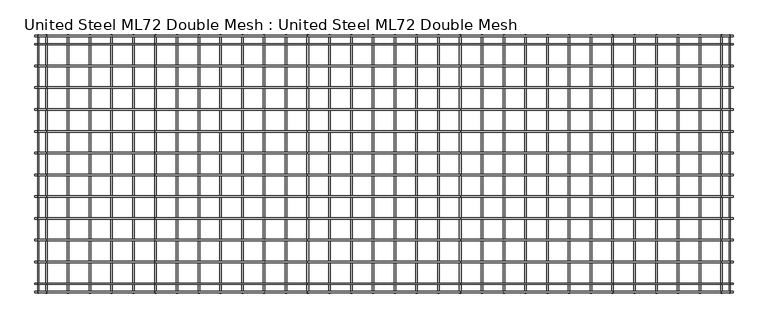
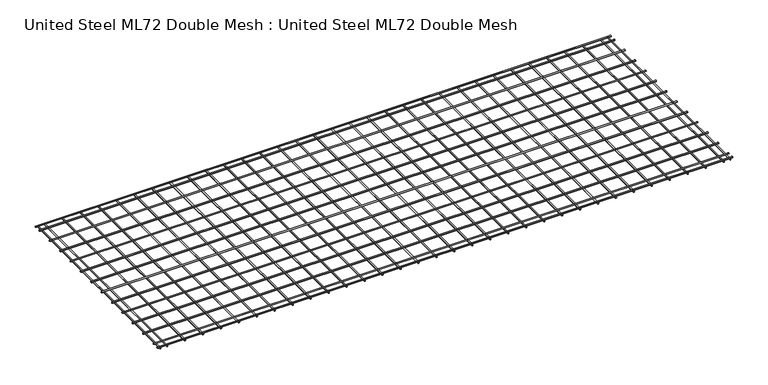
"""IFC4 building model written with IfcOpenShell, lengths in millimetres: proxy geometry, United Steel ML72 Double Mesh : United Steel ML72 Double Mesh."""

from ifc_helpers import new_model, si_unit, point, frame, frame_2d, origin, place, context, project, spatial, circle_curve, trimmed, segment, composite_curve, outline, extrude, source, transform, mapped, element, save


def united_steel_ml72_double_mesh_united_steel_ml72_double_mesh_5fd074aa(model_context):
    return source(origin(), model_context, "Body", "SweptSolid", [
        extrude(outline(composite_curve([segment(trimmed(circle_curve(frame_2d((-2085.0007199, 21.9148311)), 7.0), [point((-2092.0007199, 21.9148311))], [point((-2078.0007199, 21.9148311))], False, "CARTESIAN"), True, "CONTINUOUS"), segment(trimmed(circle_curve(frame_2d((-2085.0007199, 21.9148311)), 7.0), [point((-2078.0007199, 21.9148311))], [point((-2092.0007199, 21.9148311))], False, "CARTESIAN"), True, "CONTINUOUS")], self_intersect=False)), frame((-4950.0, 0.0, 0.0), z_axis=(1.0, 0.0, 0.0), x_axis=(0.0, 1.0, 0.0)), (0.0, 0.0, 1.0), 6410.0),
        extrude(outline(composite_curve([segment(trimmed(circle_curve(frame_2d((-1885.0007199, 21.9148311)), 7.0), [point((-1892.0007199, 21.9148311))], [point((-1878.0007199, 21.9148311))], False, "CARTESIAN"), True, "CONTINUOUS"), segment(trimmed(circle_curve(frame_2d((-1885.0007199, 21.9148311)), 7.0), [point((-1878.0007199, 21.9148311))], [point((-1892.0007199, 21.9148311))], False, "CARTESIAN"), True, "CONTINUOUS")], self_intersect=False)), frame((-4950.0, 0.0, 0.0), z_axis=(1.0, 0.0, 0.0), x_axis=(0.0, 1.0, 0.0)), (0.0, 0.0, 1.0), 6410.0),
        extrude(outline(composite_curve([segment(trimmed(circle_curve(frame_2d((-1685.0007199, 21.9148311)), 7.0), [point((-1692.0007199, 21.9148311))], [point((-1678.0007199, 21.9148311))], False, "CARTESIAN"), True, "CONTINUOUS"), segment(trimmed(circle_curve(frame_2d((-1685.0007199, 21.9148311)), 7.0), [point((-1678.0007199, 21.9148311))], [point((-1692.0007199, 21.9148311))], False, "CARTESIAN"), True, "CONTINUOUS")], self_intersect=False)), frame((-4950.0, 0.0, 0.0), z_axis=(1.0, 0.0, 0.0), x_axis=(0.0, 1.0, 0.0)), (0.0, 0.0, 1.0), 6410.0),
        extrude(outline(composite_curve([segment(trimmed(circle_curve(frame_2d((-1485.0007199, 21.9148311)), 7.0), [point((-1492.0007199, 21.9148311))], [point((-1478.0007199, 21.9148311))], False, "CARTESIAN"), True, "CONTINUOUS"), segment(trimmed(circle_curve(frame_2d((-1485.0007199, 21.9148311)), 7.0), [point((-1478.0007199, 21.9148311))], [point((-1492.0007199, 21.9148311))], False, "CARTESIAN"), True, "CONTINUOUS")], self_intersect=False)), frame((-4950.0, 0.0, 0.0), z_axis=(1.0, 0.0, 0.0), x_axis=(0.0, 1.0, 0.0)), (0.0, 0.0, 1.0), 6410.0),
        extrude(outline(composite_curve([segment(trimmed(circle_curve(frame_2d((-1285.0007199, 21.9148311)), 7.0), [point((-1292.0007199, 21.9148311))], [point((-1278.0007199, 21.9148311))], False, "CARTESIAN"), True, "CONTINUOUS"), segment(trimmed(circle_curve(frame_2d((-1285.0007199, 21.9148311)), 7.0), [point((-1278.0007199, 21.9148311))], [point((-1292.0007199, 21.9148311))], False, "CARTESIAN"), True, "CONTINUOUS")], self_intersect=False)), frame((-4950.0, 0.0, 0.0), z_axis=(1.0, 0.0, 0.0), x_axis=(0.0, 1.0, 0.0)), (0.0, 0.0, 1.0), 6410.0),
        extrude(outline(composite_curve([segment(trimmed(circle_curve(frame_2d((-1085.0007199, 21.9148311)), 7.0), [point((-1092.0007199, 21.9148311))], [point((-1078.0007199, 21.9148311))], False, "CARTESIAN"), True, "CONTINUOUS"), segment(trimmed(circle_curve(frame_2d((-1085.0007199, 21.9148311)), 7.0), [point((-1078.0007199, 21.9148311))], [point((-1092.0007199, 21.9148311))], False, "CARTESIAN"), True, "CONTINUOUS")], self_intersect=False)), frame((-4950.0, 0.0, 0.0), z_axis=(1.0, 0.0, 0.0), x_axis=(0.0, 1.0, 0.0)), (0.0, 0.0, 1.0), 6410.0),
        extrude(outline(composite_curve([segment(trimmed(circle_curve(frame_2d((-885.0007199, 21.9148311)), 7.0), [point((-892.0007199, 21.9148311))], [point((-878.0007199, 21.9148311))], False, "CARTESIAN"), True, "CONTINUOUS"), segment(trimmed(circle_curve(frame_2d((-885.0007199, 21.9148311)), 7.0), [point((-878.0007199, 21.9148311))], [point((-892.0007199, 21.9148311))], False, "CARTESIAN"), True, "CONTINUOUS")], self_intersect=False)), frame((-4950.0, 0.0, 0.0), z_axis=(1.0, 0.0, 0.0), x_axis=(0.0, 1.0, 0.0)), (0.0, 0.0, 1.0), 6410.0),
        extrude(outline(composite_curve([segment(trimmed(circle_curve(frame_2d((-685.0007199, 21.9148311)), 7.0), [point((-692.0007199, 21.9148311))], [point((-678.0007199, 21.9148311))], False, "CARTESIAN"), True, "CONTINUOUS"), segment(trimmed(circle_curve(frame_2d((-685.0007199, 21.9148311)), 7.0), [point((-678.0007199, 21.9148311))], [point((-692.0007199, 21.9148311))], False, "CARTESIAN"), True, "CONTINUOUS")], self_intersect=False)), frame((-4950.0, 0.0, 0.0), z_axis=(1.0, 0.0, 0.0), x_axis=(0.0, 1.0, 0.0)), (0.0, 0.0, 1.0), 6410.0),
        extrude(outline(composite_curve([segment(trimmed(circle_curve(frame_2d((-485.0007199, 21.9148311)), 7.0), [point((-492.0007199, 21.9148311))], [point((-478.0007199, 21.9148311))], False, "CARTESIAN"), True, "CONTINUOUS"), segment(trimmed(circle_curve(frame_2d((-485.0007199, 21.9148311)), 7.0), [point((-478.0007199, 21.9148311))], [point((-492.0007199, 21.9148311))], False, "CARTESIAN"), True, "CONTINUOUS")], self_intersect=False)), frame((-4950.0, 0.0, 0.0), z_axis=(1.0, 0.0, 0.0), x_axis=(0.0, 1.0, 0.0)), (0.0, 0.0, 1.0), 6410.0),
        extrude(outline(composite_curve([segment(trimmed(circle_curve(frame_2d((-2360.0, 21.0190095)), 6.1), [point((-2366.1, 21.0190095))], [point((-2353.9, 21.0190095))], False, "CARTESIAN"), True, "CONTINUOUS"), segment(trimmed(circle_curve(frame_2d((-2360.0, 21.0190095)), 6.1), [point((-2353.9, 21.0190095))], [point((-2366.1, 21.0190095))], False, "CARTESIAN"), True, "CONTINUOUS")], self_intersect=False)), frame((-4950.0, 0.0, 0.0), z_axis=(1.0, 0.0, 0.0), x_axis=(0.0, 1.0, 0.0)), (0.0, 0.0, 1.0), 6410.0),
        extrude(outline(composite_curve([segment(trimmed(circle_curve(frame_2d((-2285.0, 21.0190095)), 6.1), [point((-2291.1, 21.0190095))], [point((-2278.9, 21.0190095))], False, "CARTESIAN"), True, "CONTINUOUS"), segment(trimmed(circle_curve(frame_2d((-2285.0, 21.0190095)), 6.1), [point((-2278.9, 21.0190095))], [point((-2291.1, 21.0190095))], False, "CARTESIAN"), True, "CONTINUOUS")], self_intersect=False)), frame((-4950.0, 0.0, 0.0), z_axis=(1.0, 0.0, 0.0), x_axis=(0.0, 1.0, 0.0)), (0.0, 0.0, 1.0), 6410.0),
        extrude(outline(composite_curve([segment(trimmed(circle_curve(frame_2d((-85.0007199, 21.0190095)), 6.1), [point((-91.1007199, 21.0190095))], [point((-78.9007199, 21.0190095))], False, "CARTESIAN"), True, "CONTINUOUS"), segment(trimmed(circle_curve(frame_2d((-85.0007199, 21.0190095)), 6.1), [point((-78.9007199, 21.0190095))], [point((-91.1007199, 21.0190095))], False, "CARTESIAN"), True, "CONTINUOUS")], self_intersect=False)), frame((-4950.0, 0.0, 0.0), z_axis=(1.0, 0.0, 0.0), x_axis=(0.0, 1.0, 0.0)), (0.0, 0.0, 1.0), 6410.0),
        extrude(outline(composite_curve([segment(trimmed(circle_curve(frame_2d((7.9194264, 1154.9995481)), 7.0), [point((7.9194264, 1147.9995481))], [point((7.9194264, 1161.9995481))], False, "CARTESIAN"), True, "CONTINUOUS"), segment(trimmed(circle_curve(frame_2d((7.9194264, 1154.9995481)), 7.0), [point((7.9194264, 1161.9995481))], [point((7.9194264, 1147.9995481))], False, "CARTESIAN"), True, "CONTINUOUS")], self_intersect=False)), frame((0.0, -2370.0, 0.0), z_axis=(0.0, 1.0, 0.0), x_axis=(0.0, 0.0, 1.0)), (0.0, 0.0, 1.0), 2370.0),
        extrude(outline(composite_curve([segment(trimmed(circle_curve(frame_2d((7.9194264, 954.9995481)), 7.0), [point((7.9194264, 947.9995481))], [point((7.9194264, 961.9995481))], False, "CARTESIAN"), True, "CONTINUOUS"), segment(trimmed(circle_curve(frame_2d((7.9194264, 954.9995481)), 7.0), [point((7.9194264, 961.9995481))], [point((7.9194264, 947.9995481))], False, "CARTESIAN"), True, "CONTINUOUS")], self_intersect=False)), frame((0.0, -2370.0, 0.0), z_axis=(0.0, 1.0, 0.0), x_axis=(0.0, 0.0, 1.0)), (0.0, 0.0, 1.0), 2370.0),
        extrude(outline(composite_curve([segment(trimmed(circle_curve(frame_2d((7.9194264, 754.9995481)), 7.0), [point((7.9194264, 747.9995481))], [point((7.9194264, 761.9995481))], False, "CARTESIAN"), True, "CONTINUOUS"), segment(trimmed(circle_curve(frame_2d((7.9194264, 754.9995481)), 7.0), [point((7.9194264, 761.9995481))], [point((7.9194264, 747.9995481))], False, "CARTESIAN"), True, "CONTINUOUS")], self_intersect=False)), frame((0.0, -2370.0, 0.0), z_axis=(0.0, 1.0, 0.0), x_axis=(0.0, 0.0, 1.0)), (0.0, 0.0, 1.0), 2370.0),
        extrude(outline(composite_curve([segment(trimmed(circle_curve(frame_2d((7.9194264, 554.9995481)), 7.0), [point((7.9194264, 547.9995481))], [point((7.9194264, 561.9995481))], False, "CARTESIAN"), True, "CONTINUOUS"), segment(trimmed(circle_curve(frame_2d((7.9194264, 554.9995481)), 7.0), [point((7.9194264, 561.9995481))], [point((7.9194264, 547.9995481))], False, "CARTESIAN"), True, "CONTINUOUS")], self_intersect=False)), frame((0.0, -2370.0, 0.0), z_axis=(0.0, 1.0, 0.0), x_axis=(0.0, 0.0, 1.0)), (0.0, 0.0, 1.0), 2370.0),
        extrude(outline(composite_curve([segment(trimmed(circle_curve(frame_2d((7.9194264, 354.9995481)), 7.0), [point((7.9194264, 347.9995481))], [point((7.9194264, 361.9995481))], False, "CARTESIAN"), True, "CONTINUOUS"), segment(trimmed(circle_curve(frame_2d((7.9194264, 354.9995481)), 7.0), [point((7.9194264, 361.9995481))], [point((7.9194264, 347.9995481))], False, "CARTESIAN"), True, "CONTINUOUS")], self_intersect=False)), frame((0.0, -2370.0, 0.0), z_axis=(0.0, 1.0, 0.0), x_axis=(0.0, 0.0, 1.0)), (0.0, 0.0, 1.0), 2370.0),
        extrude(outline(composite_curve([segment(trimmed(circle_curve(frame_2d((7.9194264, 154.9995481)), 7.0), [point((7.9194264, 147.9995481))], [point((7.9194264, 161.9995481))], False, "CARTESIAN"), True, "CONTINUOUS"), segment(trimmed(circle_curve(frame_2d((7.9194264, 154.9995481)), 7.0), [point((7.9194264, 161.9995481))], [point((7.9194264, 147.9995481))], False, "CARTESIAN"), True, "CONTINUOUS")], self_intersect=False)), frame((0.0, -2370.0, 0.0), z_axis=(0.0, 1.0, 0.0), x_axis=(0.0, 0.0, 1.0)), (0.0, 0.0, 1.0), 2370.0),
        extrude(outline(composite_curve([segment(trimmed(circle_curve(frame_2d((7.9194264, -45.0004519)), 7.0), [point((7.9194264, -52.0004519))], [point((7.9194264, -38.0004519))], False, "CARTESIAN"), True, "CONTINUOUS"), segment(trimmed(circle_curve(frame_2d((7.9194264, -45.0004519)), 7.0), [point((7.9194264, -38.0004519))], [point((7.9194264, -52.0004519))], False, "CARTESIAN"), True, "CONTINUOUS")], self_intersect=False)), frame((0.0, -2370.0, 0.0), z_axis=(0.0, 1.0, 0.0), x_axis=(0.0, 0.0, 1.0)), (0.0, 0.0, 1.0), 2370.0),
        extrude(outline(composite_curve([segment(trimmed(circle_curve(frame_2d((7.9194264, -245.0004519)), 7.0), [point((7.9194264, -252.0004519))], [point((7.9194264, -238.0004519))], False, "CARTESIAN"), True, "CONTINUOUS"), segment(trimmed(circle_curve(frame_2d((7.9194264, -245.0004519)), 7.0), [point((7.9194264, -238.0004519))], [point((7.9194264, -252.0004519))], False, "CARTESIAN"), True, "CONTINUOUS")], self_intersect=False)), frame((0.0, -2370.0, 0.0), z_axis=(0.0, 1.0, 0.0), x_axis=(0.0, 0.0, 1.0)), (0.0, 0.0, 1.0), 2370.0),
        extrude(outline(composite_curve([segment(trimmed(circle_curve(frame_2d((7.9194264, -445.0004519)), 7.0), [point((7.9194264, -452.0004519))], [point((7.9194264, -438.0004519))], False, "CARTESIAN"), True, "CONTINUOUS"), segment(trimmed(circle_curve(frame_2d((7.9194264, -445.0004519)), 7.0), [point((7.9194264, -438.0004519))], [point((7.9194264, -452.0004519))], False, "CARTESIAN"), True, "CONTINUOUS")], self_intersect=False)), frame((0.0, -2370.0, 0.0), z_axis=(0.0, 1.0, 0.0), x_axis=(0.0, 0.0, 1.0)), (0.0, 0.0, 1.0), 2370.0),
        extrude(outline(composite_curve([segment(trimmed(circle_curve(frame_2d((7.9194264, -645.0004519)), 7.0), [point((7.9194264, -652.0004519))], [point((7.9194264, -638.0004519))], False, "CARTESIAN"), True, "CONTINUOUS"), segment(trimmed(circle_curve(frame_2d((7.9194264, -645.0004519)), 7.0), [point((7.9194264, -638.0004519))], [point((7.9194264, -652.0004519))], False, "CARTESIAN"), True, "CONTINUOUS")], self_intersect=False)), frame((0.0, -2370.0, 0.0), z_axis=(0.0, 1.0, 0.0), x_axis=(0.0, 0.0, 1.0)), (0.0, 0.0, 1.0), 2370.0),
        extrude(outline(composite_curve([segment(trimmed(circle_curve(frame_2d((7.9194264, -845.0004519)), 7.0), [point((7.9194264, -852.0004519))], [point((7.9194264, -838.0004519))], False, "CARTESIAN"), True, "CONTINUOUS"), segment(trimmed(circle_curve(frame_2d((7.9194264, -845.0004519)), 7.0), [point((7.9194264, -838.0004519))], [point((7.9194264, -852.0004519))], False, "CARTESIAN"), True, "CONTINUOUS")], self_intersect=False)), frame((0.0, -2370.0, 0.0), z_axis=(0.0, 1.0, 0.0), x_axis=(0.0, 0.0, 1.0)), (0.0, 0.0, 1.0), 2370.0),
        extrude(outline(composite_curve([segment(trimmed(circle_curve(frame_2d((7.9194264, -1045.0004519)), 7.0), [point((7.9194264, -1052.0004519))], [point((7.9194264, -1038.0004519))], False, "CARTESIAN"), True, "CONTINUOUS"), segment(trimmed(circle_curve(frame_2d((7.9194264, -1045.0004519)), 7.0), [point((7.9194264, -1038.0004519))], [point((7.9194264, -1052.0004519))], False, "CARTESIAN"), True, "CONTINUOUS")], self_intersect=False)), frame((0.0, -2370.0, 0.0), z_axis=(0.0, 1.0, 0.0), x_axis=(0.0, 0.0, 1.0)), (0.0, 0.0, 1.0), 2370.0),
        extrude(outline(composite_curve([segment(trimmed(circle_curve(frame_2d((7.9194264, -1245.0004519)), 7.0), [point((7.9194264, -1252.0004519))], [point((7.9194264, -1238.0004519))], False, "CARTESIAN"), True, "CONTINUOUS"), segment(trimmed(circle_curve(frame_2d((7.9194264, -1245.0004519)), 7.0), [point((7.9194264, -1238.0004519))], [point((7.9194264, -1252.0004519))], False, "CARTESIAN"), True, "CONTINUOUS")], self_intersect=False)), frame((0.0, -2370.0, 0.0), z_axis=(0.0, 1.0, 0.0), x_axis=(0.0, 0.0, 1.0)), (0.0, 0.0, 1.0), 2370.0),
        extrude(outline(composite_curve([segment(trimmed(circle_curve(frame_2d((7.9194264, -1445.0004519)), 7.0), [point((7.9194264, -1452.0004519))], [point((7.9194264, -1438.0004519))], False, "CARTESIAN"), True, "CONTINUOUS"), segment(trimmed(circle_curve(frame_2d((7.9194264, -1445.0004519)), 7.0), [point((7.9194264, -1438.0004519))], [point((7.9194264, -1452.0004519))], False, "CARTESIAN"), True, "CONTINUOUS")], self_intersect=False)), frame((0.0, -2370.0, 0.0), z_axis=(0.0, 1.0, 0.0), x_axis=(0.0, 0.0, 1.0)), (0.0, 0.0, 1.0), 2370.0),
        extrude(outline(composite_curve([segment(trimmed(circle_curve(frame_2d((7.9194264, -1645.0004519)), 7.0), [point((7.9194264, -1652.0004519))], [point((7.9194264, -1638.0004519))], False, "CARTESIAN"), True, "CONTINUOUS"), segment(trimmed(circle_curve(frame_2d((7.9194264, -1645.0004519)), 7.0), [point((7.9194264, -1638.0004519))], [point((7.9194264, -1652.0004519))], False, "CARTESIAN"), True, "CONTINUOUS")], self_intersect=False)), frame((0.0, -2370.0, 0.0), z_axis=(0.0, 1.0, 0.0), x_axis=(0.0, 0.0, 1.0)), (0.0, 0.0, 1.0), 2370.0),
        extrude(outline(composite_curve([segment(trimmed(circle_curve(frame_2d((7.9194264, -1845.0004519)), 7.0), [point((7.9194264, -1852.0004519))], [point((7.9194264, -1838.0004519))], False, "CARTESIAN"), True, "CONTINUOUS"), segment(trimmed(circle_curve(frame_2d((7.9194264, -1845.0004519)), 7.0), [point((7.9194264, -1838.0004519))], [point((7.9194264, -1852.0004519))], False, "CARTESIAN"), True, "CONTINUOUS")], self_intersect=False)), frame((0.0, -2370.0, 0.0), z_axis=(0.0, 1.0, 0.0), x_axis=(0.0, 0.0, 1.0)), (0.0, 0.0, 1.0), 2370.0),
        extrude(outline(composite_curve([segment(trimmed(circle_curve(frame_2d((7.9194264, -2045.0004519)), 7.0), [point((7.9194264, -2052.0004519))], [point((7.9194264, -2038.0004519))], False, "CARTESIAN"), True, "CONTINUOUS"), segment(trimmed(circle_curve(frame_2d((7.9194264, -2045.0004519)), 7.0), [point((7.9194264, -2038.0004519))], [point((7.9194264, -2052.0004519))], False, "CARTESIAN"), True, "CONTINUOUS")], self_intersect=False)), frame((0.0, -2370.0, 0.0), z_axis=(0.0, 1.0, 0.0), x_axis=(0.0, 0.0, 1.0)), (0.0, 0.0, 1.0), 2370.0),
        extrude(outline(composite_curve([segment(trimmed(circle_curve(frame_2d((7.9194264, -2245.0004519)), 7.0), [point((7.9194264, -2252.0004519))], [point((7.9194264, -2238.0004519))], False, "CARTESIAN"), True, "CONTINUOUS"), segment(trimmed(circle_curve(frame_2d((7.9194264, -2245.0004519)), 7.0), [point((7.9194264, -2238.0004519))], [point((7.9194264, -2252.0004519))], False, "CARTESIAN"), True, "CONTINUOUS")], self_intersect=False)), frame((0.0, -2370.0, 0.0), z_axis=(0.0, 1.0, 0.0), x_axis=(0.0, 0.0, 1.0)), (0.0, 0.0, 1.0), 2370.0),
        extrude(outline(composite_curve([segment(trimmed(circle_curve(frame_2d((7.9194264, -2445.0004519)), 7.0), [point((7.9194264, -2452.0004519))], [point((7.9194264, -2438.0004519))], False, "CARTESIAN"), True, "CONTINUOUS"), segment(trimmed(circle_curve(frame_2d((7.9194264, -2445.0004519)), 7.0), [point((7.9194264, -2438.0004519))], [point((7.9194264, -2452.0004519))], False, "CARTESIAN"), True, "CONTINUOUS")], self_intersect=False)), frame((0.0, -2370.0, 0.0), z_axis=(0.0, 1.0, 0.0), x_axis=(0.0, 0.0, 1.0)), (0.0, 0.0, 1.0), 2370.0),
        extrude(outline(composite_curve([segment(trimmed(circle_curve(frame_2d((7.9194264, -2645.0004519)), 7.0), [point((7.9194264, -2652.0004519))], [point((7.9194264, -2638.0004519))], False, "CARTESIAN"), True, "CONTINUOUS"), segment(trimmed(circle_curve(frame_2d((7.9194264, -2645.0004519)), 7.0), [point((7.9194264, -2638.0004519))], [point((7.9194264, -2652.0004519))], False, "CARTESIAN"), True, "CONTINUOUS")], self_intersect=False)), frame((0.0, -2370.0, 0.0), z_axis=(0.0, 1.0, 0.0), x_axis=(0.0, 0.0, 1.0)), (0.0, 0.0, 1.0), 2370.0),
        extrude(outline(composite_curve([segment(trimmed(circle_curve(frame_2d((7.9194264, -2845.0004519)), 7.0), [point((7.9194264, -2852.0004519))], [point((7.9194264, -2838.0004519))], False, "CARTESIAN"), True, "CONTINUOUS"), segment(trimmed(circle_curve(frame_2d((7.9194264, -2845.0004519)), 7.0), [point((7.9194264, -2838.0004519))], [point((7.9194264, -2852.0004519))], False, "CARTESIAN"), True, "CONTINUOUS")], self_intersect=False)), frame((0.0, -2370.0, 0.0), z_axis=(0.0, 1.0, 0.0), x_axis=(0.0, 0.0, 1.0)), (0.0, 0.0, 1.0), 2370.0),
        extrude(outline(composite_curve([segment(trimmed(circle_curve(frame_2d((7.9194264, -3045.0004519)), 7.0), [point((7.9194264, -3052.0004519))], [point((7.9194264, -3038.0004519))], False, "CARTESIAN"), True, "CONTINUOUS"), segment(trimmed(circle_curve(frame_2d((7.9194264, -3045.0004519)), 7.0), [point((7.9194264, -3038.0004519))], [point((7.9194264, -3052.0004519))], False, "CARTESIAN"), True, "CONTINUOUS")], self_intersect=False)), frame((0.0, -2370.0, 0.0), z_axis=(0.0, 1.0, 0.0), x_axis=(0.0, 0.0, 1.0)), (0.0, 0.0, 1.0), 2370.0),
        extrude(outline(composite_curve([segment(trimmed(circle_curve(frame_2d((7.9194264, -3245.0004519)), 7.0), [point((7.9194264, -3252.0004519))], [point((7.9194264, -3238.0004519))], False, "CARTESIAN"), True, "CONTINUOUS"), segment(trimmed(circle_curve(frame_2d((7.9194264, -3245.0004519)), 7.0), [point((7.9194264, -3238.0004519))], [point((7.9194264, -3252.0004519))], False, "CARTESIAN"), True, "CONTINUOUS")], self_intersect=False)), frame((0.0, -2370.0, 0.0), z_axis=(0.0, 1.0, 0.0), x_axis=(0.0, 0.0, 1.0)), (0.0, 0.0, 1.0), 2370.0),
        extrude(outline(composite_curve([segment(trimmed(circle_curve(frame_2d((7.9194264, -3445.0004519)), 7.0), [point((7.9194264, -3452.0004519))], [point((7.9194264, -3438.0004519))], False, "CARTESIAN"), True, "CONTINUOUS"), segment(trimmed(circle_curve(frame_2d((7.9194264, -3445.0004519)), 7.0), [point((7.9194264, -3438.0004519))], [point((7.9194264, -3452.0004519))], False, "CARTESIAN"), True, "CONTINUOUS")], self_intersect=False)), frame((0.0, -2370.0, 0.0), z_axis=(0.0, 1.0, 0.0), x_axis=(0.0, 0.0, 1.0)), (0.0, 0.0, 1.0), 2370.0),
        extrude(outline(composite_curve([segment(trimmed(circle_curve(frame_2d((7.9194264, -3645.0004519)), 7.0), [point((7.9194264, -3652.0004519))], [point((7.9194264, -3638.0004519))], False, "CARTESIAN"), True, "CONTINUOUS"), segment(trimmed(circle_curve(frame_2d((7.9194264, -3645.0004519)), 7.0), [point((7.9194264, -3638.0004519))], [point((7.9194264, -3652.0004519))], False, "CARTESIAN"), True, "CONTINUOUS")], self_intersect=False)), frame((0.0, -2370.0, 0.0), z_axis=(0.0, 1.0, 0.0), x_axis=(0.0, 0.0, 1.0)), (0.0, 0.0, 1.0), 2370.0),
        extrude(outline(composite_curve([segment(trimmed(circle_curve(frame_2d((7.9194264, -3845.0004519)), 7.0), [point((7.9194264, -3852.0004519))], [point((7.9194264, -3838.0004519))], False, "CARTESIAN"), True, "CONTINUOUS"), segment(trimmed(circle_curve(frame_2d((7.9194264, -3845.0004519)), 7.0), [point((7.9194264, -3838.0004519))], [point((7.9194264, -3852.0004519))], False, "CARTESIAN"), True, "CONTINUOUS")], self_intersect=False)), frame((0.0, -2370.0, 0.0), z_axis=(0.0, 1.0, 0.0), x_axis=(0.0, 0.0, 1.0)), (0.0, 0.0, 1.0), 2370.0),
        extrude(outline(composite_curve([segment(trimmed(circle_curve(frame_2d((7.9194264, -4045.0004519)), 7.0), [point((7.9194264, -4052.0004519))], [point((7.9194264, -4038.0004519))], False, "CARTESIAN"), True, "CONTINUOUS"), segment(trimmed(circle_curve(frame_2d((7.9194264, -4045.0004519)), 7.0), [point((7.9194264, -4038.0004519))], [point((7.9194264, -4052.0004519))], False, "CARTESIAN"), True, "CONTINUOUS")], self_intersect=False)), frame((0.0, -2370.0, 0.0), z_axis=(0.0, 1.0, 0.0), x_axis=(0.0, 0.0, 1.0)), (0.0, 0.0, 1.0), 2370.0),
        extrude(outline(composite_curve([segment(trimmed(circle_curve(frame_2d((7.9194264, -4245.0004519)), 7.0), [point((7.9194264, -4252.0004519))], [point((7.9194264, -4238.0004519))], False, "CARTESIAN"), True, "CONTINUOUS"), segment(trimmed(circle_curve(frame_2d((7.9194264, -4245.0004519)), 7.0), [point((7.9194264, -4238.0004519))], [point((7.9194264, -4252.0004519))], False, "CARTESIAN"), True, "CONTINUOUS")], self_intersect=False)), frame((0.0, -2370.0, 0.0), z_axis=(0.0, 1.0, 0.0), x_axis=(0.0, 0.0, 1.0)), (0.0, 0.0, 1.0), 2370.0),
        extrude(outline(composite_curve([segment(trimmed(circle_curve(frame_2d((7.9194264, -4445.0004519)), 7.0), [point((7.9194264, -4452.0004519))], [point((7.9194264, -4438.0004519))], False, "CARTESIAN"), True, "CONTINUOUS"), segment(trimmed(circle_curve(frame_2d((7.9194264, -4445.0004519)), 7.0), [point((7.9194264, -4438.0004519))], [point((7.9194264, -4452.0004519))], False, "CARTESIAN"), True, "CONTINUOUS")], self_intersect=False)), frame((0.0, -2370.0, 0.0), z_axis=(0.0, 1.0, 0.0), x_axis=(0.0, 0.0, 1.0)), (0.0, 0.0, 1.0), 2370.0),
        extrude(outline(composite_curve([segment(trimmed(circle_curve(frame_2d((8.8180254, 1430.0)), 6.1), [point((8.8180254, 1436.1))], [point((8.8180254, 1423.9))], False, "CARTESIAN"), True, "CONTINUOUS"), segment(trimmed(circle_curve(frame_2d((8.8180254, 1430.0)), 6.1), [point((8.8180254, 1423.9))], [point((8.8180254, 1436.1))], False, "CARTESIAN"), True, "CONTINUOUS")], self_intersect=False)), frame((0.0, -2370.0, 0.0), z_axis=(0.0, 1.0, 0.0), x_axis=(0.0, 0.0, 1.0)), (0.0, 0.0, 1.0), 2370.0),
        extrude(outline(composite_curve([segment(trimmed(circle_curve(frame_2d((8.8180254, 1355.0)), 6.1), [point((8.8180254, 1361.1))], [point((8.8180254, 1348.9))], False, "CARTESIAN"), True, "CONTINUOUS"), segment(trimmed(circle_curve(frame_2d((8.8180254, 1355.0)), 6.1), [point((8.8180254, 1348.9))], [point((8.8180254, 1361.1))], False, "CARTESIAN"), True, "CONTINUOUS")], self_intersect=False)), frame((0.0, -2370.0, 0.0), z_axis=(0.0, 1.0, 0.0), x_axis=(0.0, 0.0, 1.0)), (0.0, 0.0, 1.0), 2370.0),
        extrude(outline(composite_curve([segment(trimmed(circle_curve(frame_2d((8.8180254, -4845.0004519)), 6.1), [point((8.8180254, -4838.9004519))], [point((8.8180254, -4851.1004519))], False, "CARTESIAN"), True, "CONTINUOUS"), segment(trimmed(circle_curve(frame_2d((8.8180254, -4845.0004519)), 6.1), [point((8.8180254, -4851.1004519))], [point((8.8180254, -4838.9004519))], False, "CARTESIAN"), True, "CONTINUOUS")], self_intersect=False)), frame((0.0, -2370.0, 0.0), z_axis=(0.0, 1.0, 0.0), x_axis=(0.0, 0.0, 1.0)), (0.0, 0.0, 1.0), 2370.0),
        extrude(outline(composite_curve([segment(trimmed(circle_curve(frame_2d((8.8180254, -4920.0004519)), 6.1), [point((8.8180254, -4913.9004519))], [point((8.8180254, -4926.1004519))], False, "CARTESIAN"), True, "CONTINUOUS"), segment(trimmed(circle_curve(frame_2d((8.8180254, -4920.0004519)), 6.1), [point((8.8180254, -4926.1004519))], [point((8.8180254, -4913.9004519))], False, "CARTESIAN"), True, "CONTINUOUS")], self_intersect=False)), frame((0.0, -2370.0, 0.0), z_axis=(0.0, 1.0, 0.0), x_axis=(0.0, 0.0, 1.0)), (0.0, 0.0, 1.0), 2370.0),
        extrude(outline(composite_curve([segment(trimmed(circle_curve(frame_2d((7.9194264, -4645.0004519)), 7.0), [point((7.9194264, -4652.0004519))], [point((7.9194264, -4638.0004519))], False, "CARTESIAN"), True, "CONTINUOUS"), segment(trimmed(circle_curve(frame_2d((7.9194264, -4645.0004519)), 7.0), [point((7.9194264, -4638.0004519))], [point((7.9194264, -4652.0004519))], False, "CARTESIAN"), True, "CONTINUOUS")], self_intersect=False)), frame((0.0, -2370.0, 0.0), z_axis=(0.0, 1.0, 0.0), x_axis=(0.0, 0.0, 1.0)), (0.0, 0.0, 1.0), 2370.0),
        extrude(outline(composite_curve([segment(trimmed(circle_curve(frame_2d((-285.0007199, 21.9148311)), 7.0), [point((-292.0007199, 21.9148311))], [point((-278.0007199, 21.9148311))], False, "CARTESIAN"), True, "CONTINUOUS"), segment(trimmed(circle_curve(frame_2d((-285.0007199, 21.9148311)), 7.0), [point((-278.0007199, 21.9148311))], [point((-292.0007199, 21.9148311))], False, "CARTESIAN"), True, "CONTINUOUS")], self_intersect=False)), frame((-4950.0, 0.0, 0.0), z_axis=(1.0, 0.0, 0.0), x_axis=(0.0, 1.0, 0.0)), (0.0, 0.0, 1.0), 6410.0),
        extrude(outline(composite_curve([segment(trimmed(circle_curve(frame_2d((-10.0007199, 21.0190095)), 6.1), [point((-16.1007199, 21.0190095))], [point((-3.9007199, 21.0190095))], False, "CARTESIAN"), True, "CONTINUOUS"), segment(trimmed(circle_curve(frame_2d((-10.0007199, 21.0190095)), 6.1), [point((-3.9007199, 21.0190095))], [point((-16.1007199, 21.0190095))], False, "CARTESIAN"), True, "CONTINUOUS")], self_intersect=False)), frame((-4950.0, 0.0, 0.0), z_axis=(1.0, 0.0, 0.0), x_axis=(0.0, 1.0, 0.0)), (0.0, 0.0, 1.0), 6410.0),
    ])


if __name__ == "__main__":
    model = new_model("IFC4")
    model_context = context("Model", 3, world=origin())
    ifc_project = project(units=[si_unit("LENGTHUNIT", "METRE", prefix="MILLI")], contexts=[model_context])
    site = spatial("IfcSite", under=ifc_project)
    building = spatial("IfcBuilding", under=site)
    placement = place(None, origin())
    united_steel_ml72_double_mesh_united_steel_ml72_double_mesh_shape = united_steel_ml72_double_mesh_united_steel_ml72_double_mesh_5fd074aa(model_context)
    element("IfcBuildingElementProxy", 1, Name="United Steel ML72 Double Mesh : United Steel ML72 Double Mesh", ObjectType="United Steel ML72 Double Mesh : United Steel ML72 Double Mesh", at=placement, inside=building, context=model_context, shape_type="MappedRepresentation", body=[
        mapped(united_steel_ml72_double_mesh_united_steel_ml72_double_mesh_shape, transform((0.0, 0.0, 0.0), x_axis=(1.0, 0.0, 0.0), y_axis=(0.0, 1.0, 0.0), z_axis=(0.0, 0.0, 1.0))),
    ])
    save(model, "model.ifc")
